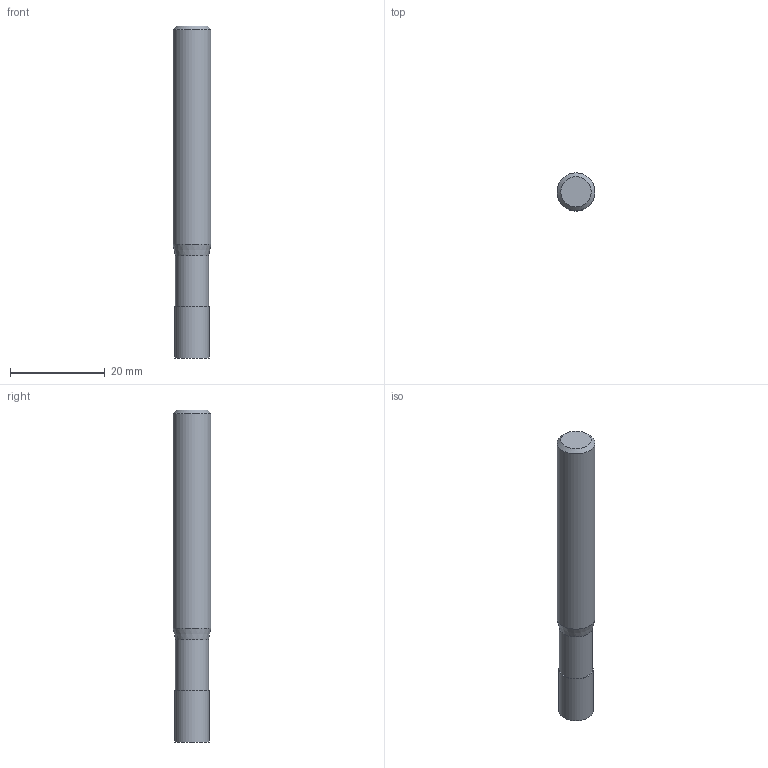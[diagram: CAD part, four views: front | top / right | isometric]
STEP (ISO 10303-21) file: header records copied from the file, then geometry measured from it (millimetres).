
FILE_DESCRIPTION((''),'2;1');
FILE_NAME('C:\Users\nsx150\AppData\Local\Temp\Mastercam 2021\EUJSUNXURU\TEMP.step','2021-04-22T10:29:09',(''),(''),'STEP Write','Mastercam 2021 ... CNC Software, Inc.','');
FILE_SCHEMA(('AUTOMOTIVE_DESIGN'));
Length unit declared in the file: millimetre
Products named in the file (1): None
Bounding box: 8 x 8 x 70 mm (x, y, z)
Volume: 3266.5 mm3; surface area: 1853.3 mm2
Topology: 2 solids, 2 shells, 9 faces, 12 edges, 7 vertices
Faces by surface type: plane 4, cylinder 3, cone 2
Full cylindrical faces by diameter (mm): 7 x1, 7.2 x1, 8 x1
Entity records: 211 total; most frequent: DIRECTION 36, CARTESIAN_POINT 25, AXIS2_PLACEMENT_3D 18, ORIENTED_EDGE 14, EDGE_LOOP 14, STYLED_ITEM 12, ADVANCED_FACE 9, FACE_BOUND 8
